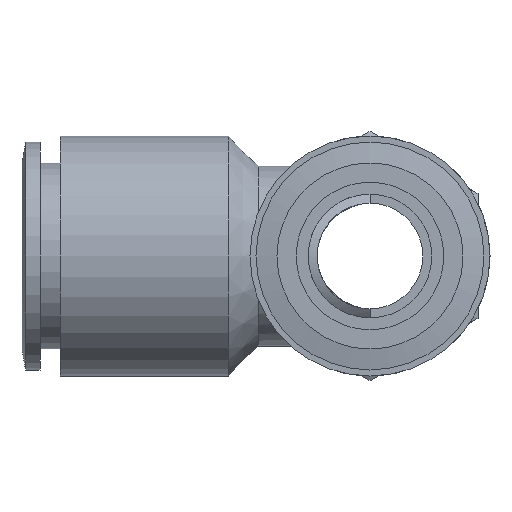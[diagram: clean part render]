
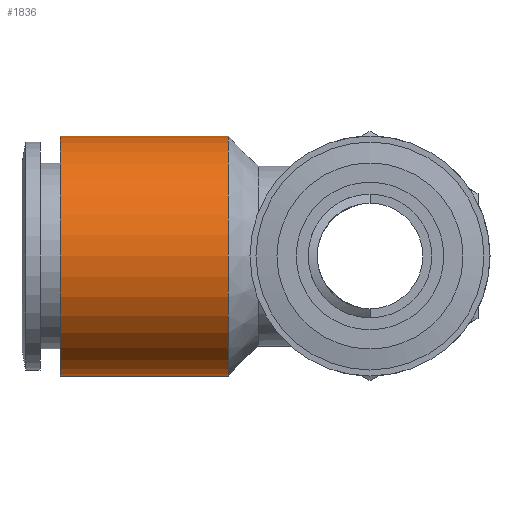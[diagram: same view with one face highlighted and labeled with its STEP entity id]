
A CAD part, left-side view. The second image highlights one B-rep face of the part: STEP entity #1836.
In plain terms, the highlighted cylindrical face has radius 10 mm (diameter 20 mm), a full revolution.
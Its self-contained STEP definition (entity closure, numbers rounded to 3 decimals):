
#1802=CARTESIAN_POINT('',(-10.0,11.8,0.0));
#1803=VERTEX_POINT('',#1802);
#1804=CARTESIAN_POINT('',(0.0,11.8,0.0));
#1805=DIRECTION('',(0.0,1.0,0.0));
#1806=DIRECTION('',(-1.0,0.0,0.0));
#1807=AXIS2_PLACEMENT_3D('',#1804,#1805,#1806);
#1808=CIRCLE('',#1807,10.0);
#1809=EDGE_CURVE('',#1803,#1803,#1808,.T.);
#1817=CARTESIAN_POINT('',(0.0,18.8,0.0));
#1818=DIRECTION('',(0.0,1.0,0.0));
#1819=DIRECTION('',(-1.0,0.0,0.0));
#1820=AXIS2_PLACEMENT_3D('',#1817,#1818,#1819);
#1821=CYLINDRICAL_SURFACE('',#1820,10.0);
#1822=CARTESIAN_POINT('',(-10.0,25.8,0.0));
#1823=VERTEX_POINT('',#1822);
#1824=CARTESIAN_POINT('',(0.0,25.8,0.0));
#1825=DIRECTION('',(0.0,1.0,0.0));
#1826=DIRECTION('',(-1.0,0.0,0.0));
#1827=AXIS2_PLACEMENT_3D('',#1824,#1825,#1826);
#1828=CIRCLE('',#1827,10.0);
#1829=EDGE_CURVE('',#1823,#1823,#1828,.T.);
#1830=ORIENTED_EDGE('',*,*,#1829,.F.);
#1831=EDGE_LOOP('',(#1830));
#1832=FACE_OUTER_BOUND('',#1831,.T.);
#1833=ORIENTED_EDGE('',*,*,#1809,.T.);
#1834=EDGE_LOOP('',(#1833));
#1835=FACE_BOUND('',#1834,.T.);
#1836=ADVANCED_FACE('',(#1832,#1835),#1821,.T.);
